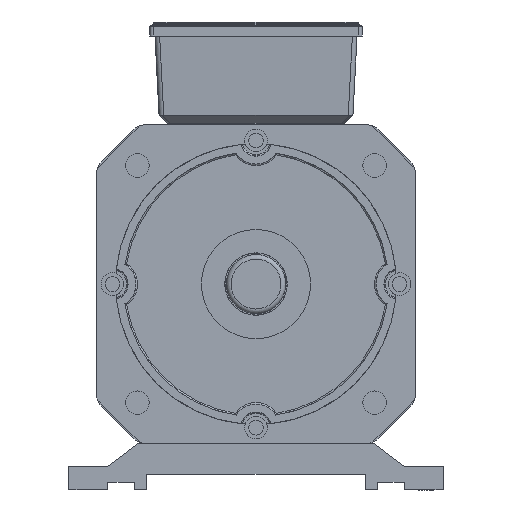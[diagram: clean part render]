
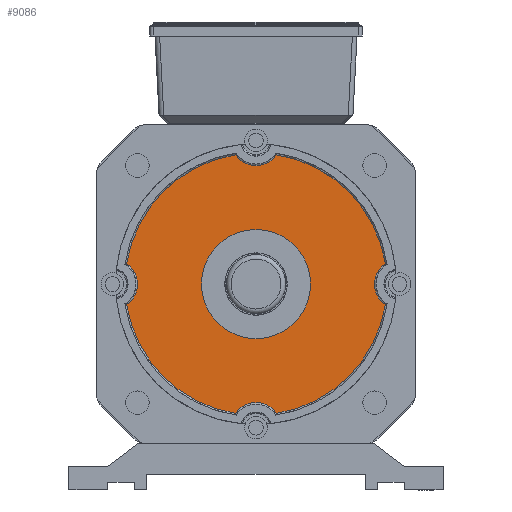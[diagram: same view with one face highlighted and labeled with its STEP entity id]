
A CAD part, front view. The second image highlights one B-rep face of the part: STEP entity #9086.
In plain terms, the highlighted planar face has unit normal (0, -1, 0).
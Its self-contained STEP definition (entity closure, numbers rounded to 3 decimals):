
#7313=PLANE('',#33385);
#9086=ADVANCED_FACE('',(#10428,#10429),#7313,.T.);
#10428=FACE_BOUND('',#12417,.T.);
#10429=FACE_BOUND('',#12418,.T.);
#12417=EDGE_LOOP('',(#20814,#20815,#20816,#20817,#20818,#20819,#20820,#20821));
#12418=EDGE_LOOP('',(#20822));
#20814=ORIENTED_EDGE('',*,*,#28260,.T.);
#20815=ORIENTED_EDGE('',*,*,#28611,.T.);
#20816=ORIENTED_EDGE('',*,*,#28612,.T.);
#20817=ORIENTED_EDGE('',*,*,#28613,.T.);
#20818=ORIENTED_EDGE('',*,*,#28614,.T.);
#20819=ORIENTED_EDGE('',*,*,#28615,.T.);
#20820=ORIENTED_EDGE('',*,*,#28268,.T.);
#20821=ORIENTED_EDGE('',*,*,#28369,.T.);
#20822=ORIENTED_EDGE('',*,*,#28616,.T.);
#24026=VERTEX_POINT('',#60067);
#24027=VERTEX_POINT('',#60069);
#24033=VERTEX_POINT('',#60104);
#24034=VERTEX_POINT('',#60106);
#24247=VERTEX_POINT('',#61659);
#24248=VERTEX_POINT('',#61661);
#24249=VERTEX_POINT('',#61663);
#24250=VERTEX_POINT('',#61665);
#24251=VERTEX_POINT('',#61668);
#28260=EDGE_CURVE('',#24027,#24026,#30253,.T.);
#28268=EDGE_CURVE('',#24034,#24033,#30257,.T.);
#28369=EDGE_CURVE('',#24033,#24027,#30277,.T.);
#28611=EDGE_CURVE('',#24026,#24247,#30362,.T.);
#28612=EDGE_CURVE('',#24247,#24248,#30363,.T.);
#28613=EDGE_CURVE('',#24248,#24249,#30364,.T.);
#28614=EDGE_CURVE('',#24249,#24250,#30365,.T.);
#28615=EDGE_CURVE('',#24250,#24034,#30366,.T.);
#28616=EDGE_CURVE('',#24251,#24251,#30367,.T.);
#30253=CIRCLE('',#33138,83.93);
#30257=CIRCLE('',#33144,83.93);
#30277=CIRCLE('',#33198,16.07);
#30362=CIRCLE('',#33379,16.07);
#30363=CIRCLE('',#33380,83.93);
#30364=CIRCLE('',#33381,16.07);
#30365=CIRCLE('',#33382,83.93);
#30366=CIRCLE('',#33383,16.07);
#30367=CIRCLE('',#33384,35.);
#33138=AXIS2_PLACEMENT_3D('',#60068,#39983,#39984);
#33144=AXIS2_PLACEMENT_3D('',#60105,#39995,#39996);
#33198=AXIS2_PLACEMENT_3D('',#60504,#40135,#40136);
#33379=AXIS2_PLACEMENT_3D('',#61658,#40563,#40564);
#33380=AXIS2_PLACEMENT_3D('',#61660,#40565,#40566);
#33381=AXIS2_PLACEMENT_3D('',#61662,#40567,#40568);
#33382=AXIS2_PLACEMENT_3D('',#61664,#40569,#40570);
#33383=AXIS2_PLACEMENT_3D('',#61666,#40571,#40572);
#33384=AXIS2_PLACEMENT_3D('',#61667,#40573,#40574);
#33385=AXIS2_PLACEMENT_3D('',#61669,#40575,#40576);
#39983=DIRECTION('',(0.,-1.,0.));
#39984=DIRECTION('',(0.,0.,-1.));
#39995=DIRECTION('',(0.,-1.,0.));
#39996=DIRECTION('',(0.,0.,-1.));
#40135=DIRECTION('',(0.,1.,0.));
#40136=DIRECTION('',(0.,0.,-1.));
#40563=DIRECTION('',(0.,1.,0.));
#40564=DIRECTION('',(0.,0.,1.));
#40565=DIRECTION('',(0.,-1.,0.));
#40566=DIRECTION('',(0.,0.,1.));
#40567=DIRECTION('',(0.,1.,0.));
#40568=DIRECTION('',(0.,0.,1.));
#40569=DIRECTION('',(0.,-1.,0.));
#40570=DIRECTION('',(0.,0.,1.));
#40571=DIRECTION('',(0.,1.,0.));
#40572=DIRECTION('',(0.,0.,1.));
#40573=DIRECTION('',(0.,1.,0.));
#40574=DIRECTION('',(0.,0.,1.));
#40575=DIRECTION('',(0.,-1.,0.));
#40576=DIRECTION('',(1.,0.,0.));
#60067=CARTESIAN_POINT('',(253.31,226.506,94.746));
#60068=CARTESIAN_POINT('',(170.43,226.506,107.978));
#60069=CARTESIAN_POINT('',(183.662,226.506,25.098));
#60104=CARTESIAN_POINT('',(157.198,226.506,25.098));
#60105=CARTESIAN_POINT('',(170.43,226.506,107.978));
#60106=CARTESIAN_POINT('',(87.55,226.506,94.746));
#60504=CARTESIAN_POINT('',(170.43,226.506,15.978));
#61658=CARTESIAN_POINT('',(262.43,226.506,107.978));
#61659=CARTESIAN_POINT('',(253.31,226.506,121.21));
#61660=CARTESIAN_POINT('',(170.43,226.506,107.978));
#61661=CARTESIAN_POINT('',(183.662,226.506,190.858));
#61662=CARTESIAN_POINT('',(170.43,226.506,199.978));
#61663=CARTESIAN_POINT('',(157.198,226.506,190.858));
#61664=CARTESIAN_POINT('',(170.43,226.506,107.978));
#61665=CARTESIAN_POINT('',(87.55,226.506,121.21));
#61666=CARTESIAN_POINT('',(78.43,226.506,107.978));
#61667=CARTESIAN_POINT('',(170.43,226.506,107.978));
#61668=CARTESIAN_POINT('',(170.43,226.506,142.978));
#61669=CARTESIAN_POINT('',(170.43,226.506,107.978));
